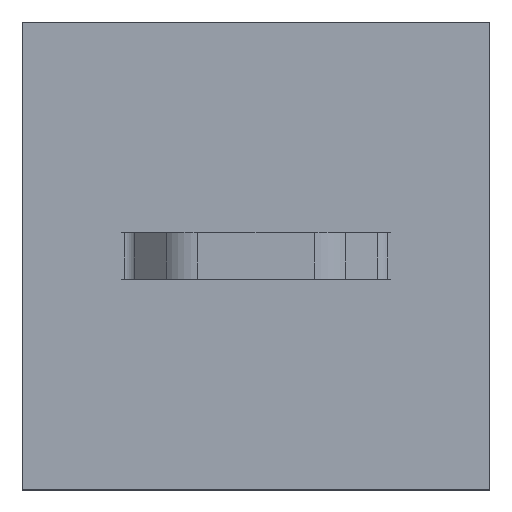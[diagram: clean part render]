
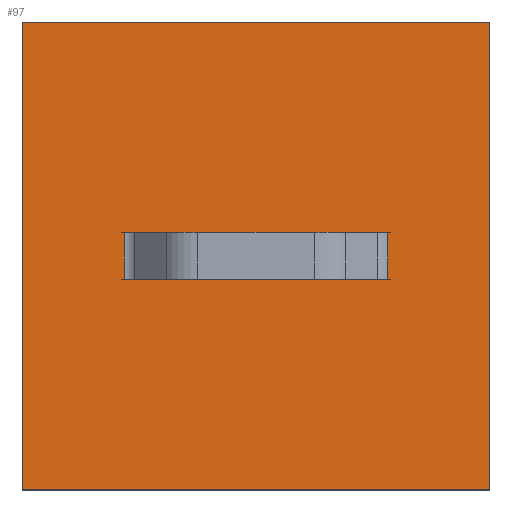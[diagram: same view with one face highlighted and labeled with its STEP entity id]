
A CAD part, top view. The second image highlights one B-rep face of the part: STEP entity #97.
In plain terms, the highlighted planar face has unit normal (0, 0, 1).
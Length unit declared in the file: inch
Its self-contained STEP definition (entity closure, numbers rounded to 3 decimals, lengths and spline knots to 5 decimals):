
#97=ADVANCED_FACE('',(#148,#149),#150,.T.);
#148=FACE_OUTER_BOUND('',#206,.T.);
#149=FACE_BOUND('',#207,.T.);
#150=PLANE('',#208);
#206=EDGE_LOOP('',(#406,#407,#408,#409));
#207=EDGE_LOOP('',(#410,#411,#412,#413,#414,#415,#416,#417,#418,#419,#420,#421));
#208=AXIS2_PLACEMENT_3D('',#422,#423,#424);
#406=ORIENTED_EDGE('',*,*,#546,.F.);
#407=ORIENTED_EDGE('',*,*,#547,.T.);
#408=ORIENTED_EDGE('',*,*,#548,.T.);
#409=ORIENTED_EDGE('',*,*,#483,.F.);
#410=ORIENTED_EDGE('',*,*,#536,.T.);
#411=ORIENTED_EDGE('',*,*,#476,.T.);
#412=ORIENTED_EDGE('',*,*,#475,.F.);
#413=ORIENTED_EDGE('',*,*,#480,.T.);
#414=ORIENTED_EDGE('',*,*,#537,.T.);
#415=ORIENTED_EDGE('',*,*,#530,.T.);
#416=ORIENTED_EDGE('',*,*,#497,.T.);
#417=ORIENTED_EDGE('',*,*,#549,.F.);
#418=ORIENTED_EDGE('',*,*,#541,.T.);
#419=ORIENTED_EDGE('',*,*,#545,.F.);
#420=ORIENTED_EDGE('',*,*,#505,.T.);
#421=ORIENTED_EDGE('',*,*,#519,.F.);
#422=CARTESIAN_POINT('',(0.0,0.6023,0.0227));
#423=DIRECTION('',(0.0,0.0,1.0));
#424=DIRECTION('',(1.0,0.0,0.0));
#475=EDGE_CURVE('',#561,#557,#563,.T.);
#476=EDGE_CURVE('',#564,#557,#565,.T.);
#480=EDGE_CURVE('',#561,#569,#572,.T.);
#483=EDGE_CURVE('',#574,#577,#578,.T.);
#497=EDGE_CURVE('',#605,#603,#606,.T.);
#505=EDGE_CURVE('',#583,#619,#621,.T.);
#519=EDGE_CURVE('',#641,#619,#643,.T.);
#530=EDGE_CURVE('',#659,#605,#660,.T.);
#536=EDGE_CURVE('',#641,#564,#668,.T.);
#537=EDGE_CURVE('',#569,#659,#669,.T.);
#541=EDGE_CURVE('',#675,#673,#676,.T.);
#545=EDGE_CURVE('',#583,#673,#681,.T.);
#546=EDGE_CURVE('',#682,#574,#683,.T.);
#547=EDGE_CURVE('',#682,#684,#685,.T.);
#548=EDGE_CURVE('',#684,#577,#686,.T.);
#549=EDGE_CURVE('',#675,#603,#687,.T.);
#557=VERTEX_POINT('',#697);
#561=VERTEX_POINT('',#703);
#563=LINE('',#706,#707);
#564=VERTEX_POINT('',#708);
#565=LINE('',#709,#710);
#569=VERTEX_POINT('',#716);
#572=LINE('',#720,#721);
#574=VERTEX_POINT('',#724);
#577=VERTEX_POINT('',#728);
#578=LINE('',#729,#730);
#583=VERTEX_POINT('',#737);
#603=VERTEX_POINT('',#763);
#605=VERTEX_POINT('',#766);
#606=LINE('',#767,#768);
#619=VERTEX_POINT('',#784);
#621=LINE('',#786,#787);
#641=VERTEX_POINT('',#816);
#643=LINE('',#818,#819);
#659=VERTEX_POINT('',#843);
#660=LINE('',#844,#845);
#668=LINE('',#856,#857);
#669=LINE('',#858,#859);
#673=VERTEX_POINT('',#865);
#675=VERTEX_POINT('',#868);
#676=LINE('',#869,#870);
#681=LINE('',#878,#879);
#682=VERTEX_POINT('',#880);
#683=LINE('',#881,#882);
#684=VERTEX_POINT('',#883);
#685=LINE('',#884,#885);
#686=LINE('',#886,#887);
#687=LINE('',#888,#889);
#697=CARTESIAN_POINT('',(0.57314,-0.0987,0.0227));
#703=CARTESIAN_POINT('',(-0.57314,-0.0987,0.0227));
#706=CARTESIAN_POINT('',(0.0,-0.0987,0.0227));
#707=VECTOR('',#907,1.0);
#708=CARTESIAN_POINT('',(0.57314,-0.0977,0.0227));
#709=CARTESIAN_POINT('',(0.57314,-0.3477,0.0227));
#710=VECTOR('',#908,1.0);
#716=CARTESIAN_POINT('',(-0.57314,-0.0977,0.0227));
#720=CARTESIAN_POINT('',(-0.57314,-0.3477,0.0227));
#721=VECTOR('',#912,1.0);
#724=CARTESIAN_POINT('',(1.0,-0.9977,0.0227));
#728=CARTESIAN_POINT('',(-1.0,-0.9977,0.0227));
#729=CARTESIAN_POINT('',(0.0,-0.9977,0.0227));
#730=VECTOR('',#915,1.0);
#737=CARTESIAN_POINT('',(0.57314,0.1023,0.0227));
#763=CARTESIAN_POINT('',(-0.57314,0.1023,0.0227));
#766=CARTESIAN_POINT('',(-0.56314,0.1023,0.0227));
#767=CARTESIAN_POINT('',(-1.0,0.1023,0.0227));
#768=VECTOR('',#937,1.0);
#784=CARTESIAN_POINT('',(0.56314,0.1023,0.0227));
#786=CARTESIAN_POINT('',(0.56314,0.1023,0.0227));
#787=VECTOR('',#953,1.0);
#816=CARTESIAN_POINT('',(0.56314,-0.0977,0.0227));
#818=CARTESIAN_POINT('',(0.56314,-0.0977,0.0227));
#819=VECTOR('',#975,1.0);
#843=CARTESIAN_POINT('',(-0.56314,-0.0977,0.0227));
#844=CARTESIAN_POINT('',(-0.56314,-0.0977,0.0227));
#845=VECTOR('',#990,1.0);
#856=CARTESIAN_POINT('',(0.56314,-0.0977,0.0227));
#857=VECTOR('',#1000,1.0);
#858=CARTESIAN_POINT('',(-1.0,-0.0977,0.0227));
#859=VECTOR('',#1001,1.0);
#865=CARTESIAN_POINT('',(0.57314,0.1033,0.0227));
#868=CARTESIAN_POINT('',(-0.57314,0.1033,0.0227));
#869=CARTESIAN_POINT('',(0.0,0.1033,0.0227));
#870=VECTOR('',#1005,1.0);
#878=CARTESIAN_POINT('',(0.57314,0.3523,0.0227));
#879=VECTOR('',#1009,1.0);
#880=CARTESIAN_POINT('',(1.0,1.0023,0.0227));
#881=CARTESIAN_POINT('',(1.0,-0.5977,0.0227));
#882=VECTOR('',#1010,1.0);
#883=CARTESIAN_POINT('',(-1.0,1.0023,0.0227));
#884=CARTESIAN_POINT('',(0.0,1.0023,0.0227));
#885=VECTOR('',#1011,1.0);
#886=CARTESIAN_POINT('',(-1.0,0.6023,0.0227));
#887=VECTOR('',#1012,1.0);
#888=CARTESIAN_POINT('',(-0.57314,0.3523,0.0227));
#889=VECTOR('',#1013,1.0);
#907=DIRECTION('',(1.0,0.0,0.0));
#908=DIRECTION('',(0.0,-1.0,0.0));
#912=DIRECTION('',(0.0,1.0,0.0));
#915=DIRECTION('',(-1.0,0.0,0.0));
#937=DIRECTION('',(-1.0,0.0,0.0));
#953=DIRECTION('',(-1.0,0.0,0.0));
#975=DIRECTION('',(0.0,1.0,0.));
#990=DIRECTION('',(0.0,1.0,0.));
#1000=DIRECTION('',(1.0,0.0,0.0));
#1001=DIRECTION('',(1.0,0.0,0.0));
#1005=DIRECTION('',(1.0,0.0,0.0));
#1009=DIRECTION('',(0.0,1.0,0.0));
#1010=DIRECTION('',(0.0,-1.0,0.0));
#1011=DIRECTION('',(-1.0,0.0,0.0));
#1012=DIRECTION('',(0.0,-1.0,0.0));
#1013=DIRECTION('',(0.0,-1.0,0.0));
